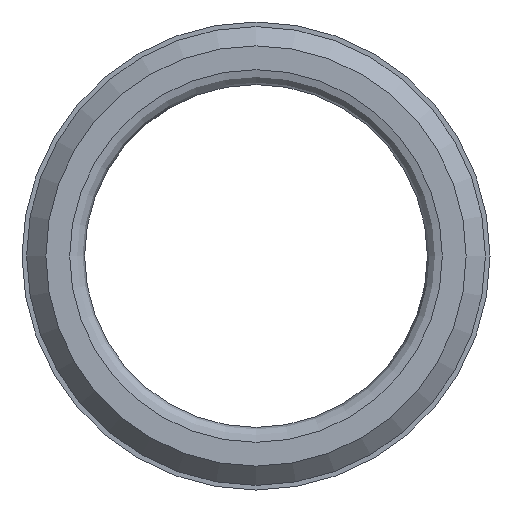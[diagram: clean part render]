
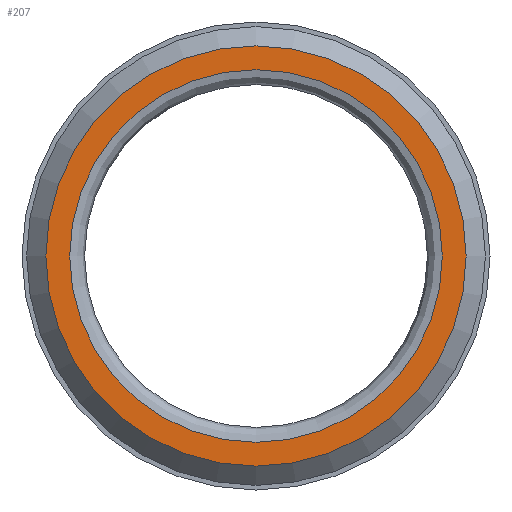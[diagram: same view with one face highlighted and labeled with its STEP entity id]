
A CAD part, front view. The second image highlights one B-rep face of the part: STEP entity #207.
In plain terms, the highlighted planar face has unit normal (0, -1, 0).
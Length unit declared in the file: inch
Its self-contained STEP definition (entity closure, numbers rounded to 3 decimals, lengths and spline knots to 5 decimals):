
#22=FACE_BOUND('',#44,.T.);
#26=PLANE('',#236);
#31=FACE_OUTER_BOUND('',#43,.T.);
#43=EDGE_LOOP('',(#150));
#44=EDGE_LOOP('',(#151,#152));
#68=CIRCLE('',#233,0.141);
#71=CIRCLE('',#237,0.125);
#72=CIRCLE('',#238,0.125);
#93=VERTEX_POINT('',#352);
#96=VERTEX_POINT('',#360);
#97=VERTEX_POINT('',#361);
#115=EDGE_CURVE('',#93,#93,#68,.T.);
#119=EDGE_CURVE('',#96,#97,#71,.T.);
#120=EDGE_CURVE('',#97,#96,#72,.T.);
#150=ORIENTED_EDGE('',*,*,#115,.F.);
#151=ORIENTED_EDGE('',*,*,#119,.F.);
#152=ORIENTED_EDGE('',*,*,#120,.F.);
#207=ADVANCED_FACE('',(#31,#22),#26,.T.);
#233=AXIS2_PLACEMENT_3D('',#353,#273,#274);
#236=AXIS2_PLACEMENT_3D('',#359,#280,#281);
#237=AXIS2_PLACEMENT_3D('',#362,#282,#283);
#238=AXIS2_PLACEMENT_3D('',#363,#284,#285);
#273=DIRECTION('center_axis',(0.,1.,0.));
#274=DIRECTION('ref_axis',(0.,0.,1.));
#280=DIRECTION('center_axis',(0.,-1.,0.));
#281=DIRECTION('ref_axis',(0.,0.,-1.));
#282=DIRECTION('center_axis',(0.,-1.,0.));
#283=DIRECTION('ref_axis',(0.,0.,1.));
#284=DIRECTION('center_axis',(0.,-1.,0.));
#285=DIRECTION('ref_axis',(0.,0.,1.));
#352=CARTESIAN_POINT('',(0.,0.,-0.141));
#353=CARTESIAN_POINT('Origin',(0.,0.,0.));
#359=CARTESIAN_POINT('Origin',(0.,0.,-0.115));
#360=CARTESIAN_POINT('',(0.,0.,-0.125));
#361=CARTESIAN_POINT('',(0.,0.,0.125));
#362=CARTESIAN_POINT('Origin',(0.,0.,0.));
#363=CARTESIAN_POINT('Origin',(0.,0.,0.));
